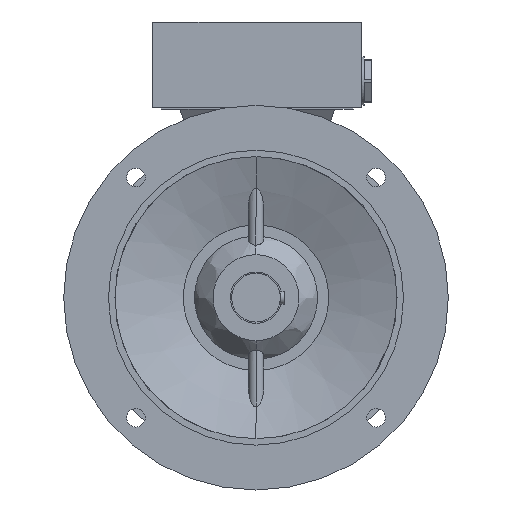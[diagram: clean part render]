
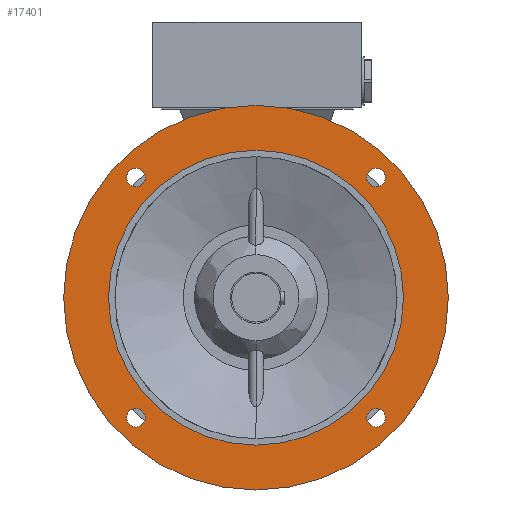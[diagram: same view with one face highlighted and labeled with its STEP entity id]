
A CAD part, left-side view. The second image highlights one B-rep face of the part: STEP entity #17401.
In plain terms, the highlighted planar face has unit normal (-1, 0, 0).
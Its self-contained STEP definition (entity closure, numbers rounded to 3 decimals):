
#1345 = FACE_BOUND ( 'NONE', #8859, .T. ) ;
#1348 = FACE_BOUND ( 'NONE', #8899, .T. ) ;
#1350 = FACE_OUTER_BOUND ( 'NONE', #14805, .T. ) ;
#1351 = FACE_BOUND ( 'NONE', #14267, .T. ) ;
#1352 = FACE_BOUND ( 'NONE', #12494, .T. ) ;
#1353 = FACE_BOUND ( 'NONE', #8702, .T. ) ;
#1929 = CIRCLE ( 'NONE', #24018, 115. ) ;
#1953 = CIRCLE ( 'NONE', #24020, 150. ) ;
#1964 = CIRCLE ( 'NONE', #24022, 7.25 ) ;
#1966 = CIRCLE ( 'NONE', #24024, 7.25 ) ;
#1968 = CIRCLE ( 'NONE', #24026, 7.25 ) ;
#1970 = CIRCLE ( 'NONE', #24029, 7.25 ) ;
#2753 = AXIS2_PLACEMENT_3D ( 'NONE', #14844, #14845, #14846 ) ;
#2760 = AXIS2_PLACEMENT_3D ( 'NONE', #14877, #14878, #14879 ) ;
#2762 = AXIS2_PLACEMENT_3D ( 'NONE', #14910, #14911, #14912 ) ;
#2767 = AXIS2_PLACEMENT_3D ( 'NONE', #14972, #14973, #14974 ) ;
#2772 = AXIS2_PLACEMENT_3D ( 'NONE', #15036, #15037, #15038 ) ;
#3906 = CARTESIAN_POINT ( 'NONE',  ( -50.5, 0., 0. ) ) ;
#3907 = DIRECTION ( 'NONE',  ( 1., 0., 0. ) ) ;
#3908 = DIRECTION ( 'NONE',  ( 0., 0., 1. ) ) ;
#3921 = CARTESIAN_POINT ( 'NONE',  ( -50.5, 0., 0. ) ) ;
#3922 = DIRECTION ( 'NONE',  ( 1., 0., 0. ) ) ;
#3923 = DIRECTION ( 'NONE',  ( 0., 0., 1. ) ) ;
#3924 = CARTESIAN_POINT ( 'NONE',  ( -50.5, -93.692, 93.692 ) ) ;
#3925 = DIRECTION ( 'NONE',  ( 1., 0., 0. ) ) ;
#3926 = DIRECTION ( 'NONE',  ( 0., 0., -1. ) ) ;
#3927 = CARTESIAN_POINT ( 'NONE',  ( -50.5, 93.692, 93.692 ) ) ;
#3928 = DIRECTION ( 'NONE',  ( 1., 0., 0. ) ) ;
#3929 = DIRECTION ( 'NONE',  ( 0., 0., -1. ) ) ;
#3931 = CARTESIAN_POINT ( 'NONE',  ( -50.5, 93.692, -93.692 ) ) ;
#3932 = DIRECTION ( 'NONE',  ( 1., 0., 0. ) ) ;
#3933 = DIRECTION ( 'NONE',  ( 0., 0., -1. ) ) ;
#3936 = CARTESIAN_POINT ( 'NONE',  ( -50.5, -93.692, -93.692 ) ) ;
#3937 = DIRECTION ( 'NONE',  ( 1., 0., 0. ) ) ;
#3938 = DIRECTION ( 'NONE',  ( 0., 0., -1. ) ) ;
#4505 = CIRCLE ( 'NONE', #24185, 115. ) ;
#4742 = CARTESIAN_POINT ( 'NONE',  ( -50.5, 0., 0. ) ) ;
#4743 = DIRECTION ( 'NONE',  ( 1., 0., 0. ) ) ;
#4744 = DIRECTION ( 'NONE',  ( 0., 0., 1. ) ) ;
#5705 = AXIS2_PLACEMENT_3D ( 'NONE', #7426, #7421, #7427 ) ;
#7420 = PLANE ( 'NONE',  #5705 ) ;
#7421 = DIRECTION ( 'NONE',  ( -1., 0., 0. ) ) ;
#7426 = CARTESIAN_POINT ( 'NONE',  ( -50.5, 132.5, 0. ) ) ;
#7427 = DIRECTION ( 'NONE',  ( 0., 0., 1. ) ) ;
#8612 = ORIENTED_EDGE ( 'NONE', *, *, #19208, .T. ) ;
#8629 = ORIENTED_EDGE ( 'NONE', *, *, #15732, .T. ) ;
#8637 = ORIENTED_EDGE ( 'NONE', *, *, #19207, .T. ) ;
#8644 = ORIENTED_EDGE ( 'NONE', *, *, #19209, .T. ) ;
#8655 = ORIENTED_EDGE ( 'NONE', *, *, #19196, .T. ) ;
#8702 = EDGE_LOOP ( 'NONE', ( #8644, #8798 ) ) ;
#8722 = ORIENTED_EDGE ( 'NONE', *, *, #19206, .T. ) ;
#8742 = ORIENTED_EDGE ( 'NONE', *, *, #15690, .F. ) ;
#8798 = ORIENTED_EDGE ( 'NONE', *, *, #15714, .T. ) ;
#8814 = ORIENTED_EDGE ( 'NONE', *, *, #19205, .F. ) ;
#8838 = ORIENTED_EDGE ( 'NONE', *, *, #15682, .T. ) ;
#8851 = ORIENTED_EDGE ( 'NONE', *, *, #15698, .T. ) ;
#8859 = EDGE_LOOP ( 'NONE', ( #8722, #8851 ) ) ;
#8870 = ORIENTED_EDGE ( 'NONE', *, *, #22711, .T. ) ;
#8899 = EDGE_LOOP ( 'NONE', ( #8612, #8838 ) ) ;
#12494 = EDGE_LOOP ( 'NONE', ( #8655, #8870 ) ) ;
#14251 = VERTEX_POINT ( 'NONE', #20626 ) ;
#14256 = VERTEX_POINT ( 'NONE', #20630 ) ;
#14264 = VERTEX_POINT ( 'NONE', #20637 ) ;
#14267 = EDGE_LOOP ( 'NONE', ( #8637, #8629 ) ) ;
#14269 = VERTEX_POINT ( 'NONE', #20641 ) ;
#14272 = VERTEX_POINT ( 'NONE', #20644 ) ;
#14278 = VERTEX_POINT ( 'NONE', #20649 ) ;
#14279 = VERTEX_POINT ( 'NONE', #20650 ) ;
#14283 = VERTEX_POINT ( 'NONE', #20653 ) ;
#14293 = VERTEX_POINT ( 'NONE', #20662 ) ;
#14295 = VERTEX_POINT ( 'NONE', #20664 ) ;
#14297 = VERTEX_POINT ( 'NONE', #20666 ) ;
#14298 = VERTEX_POINT ( 'NONE', #20667 ) ;
#14805 = EDGE_LOOP ( 'NONE', ( #8814, #8742 ) ) ;
#14844 = CARTESIAN_POINT ( 'NONE',  ( -50.5, 93.692, -93.692 ) ) ;
#14845 = DIRECTION ( 'NONE',  ( 1., 0., 0. ) ) ;
#14846 = DIRECTION ( 'NONE',  ( 0., 0., -1. ) ) ;
#14877 = CARTESIAN_POINT ( 'NONE',  ( -50.5, 0., 0. ) ) ;
#14878 = DIRECTION ( 'NONE',  ( 1., 0., 0. ) ) ;
#14879 = DIRECTION ( 'NONE',  ( 0., 0., 1. ) ) ;
#14910 = CARTESIAN_POINT ( 'NONE',  ( -50.5, -93.692, 93.692 ) ) ;
#14911 = DIRECTION ( 'NONE',  ( 1., 0., 0. ) ) ;
#14912 = DIRECTION ( 'NONE',  ( 0., 0., -1. ) ) ;
#14972 = CARTESIAN_POINT ( 'NONE',  ( -50.5, -93.692, -93.692 ) ) ;
#14973 = DIRECTION ( 'NONE',  ( 1., 0., 0. ) ) ;
#14974 = DIRECTION ( 'NONE',  ( 0., 0., -1. ) ) ;
#15036 = CARTESIAN_POINT ( 'NONE',  ( -50.5, 93.692, 93.692 ) ) ;
#15037 = DIRECTION ( 'NONE',  ( 1., 0., 0. ) ) ;
#15038 = DIRECTION ( 'NONE',  ( 0., 0., -1. ) ) ;
#15682 = EDGE_CURVE ( 'NONE', #14264, #14269, #18050, .T. ) ;
#15690 = EDGE_CURVE ( 'NONE', #14293, #14295, #18057, .T. ) ;
#15698 = EDGE_CURVE ( 'NONE', #14279, #14283, #18064, .T. ) ;
#15714 = EDGE_CURVE ( 'NONE', #14251, #14256, #18083, .T. ) ;
#15732 = EDGE_CURVE ( 'NONE', #14272, #14278, #18111, .T. ) ;
#17401 = ADVANCED_FACE ( 'NONE', ( #1350, #1352, #1345, #1351, #1348, #1353 ), #7420, .T. ) ;
#18050 = CIRCLE ( 'NONE', #2753, 7.25 ) ;
#18057 = CIRCLE ( 'NONE', #2760, 150. ) ;
#18064 = CIRCLE ( 'NONE', #2762, 7.25 ) ;
#18083 = CIRCLE ( 'NONE', #2767, 7.25 ) ;
#18111 = CIRCLE ( 'NONE', #2772, 7.25 ) ;
#19196 = EDGE_CURVE ( 'NONE', #14298, #14297, #1929, .T. ) ;
#19205 = EDGE_CURVE ( 'NONE', #14295, #14293, #1953, .T. ) ;
#19206 = EDGE_CURVE ( 'NONE', #14283, #14279, #1964, .T. ) ;
#19207 = EDGE_CURVE ( 'NONE', #14278, #14272, #1966, .T. ) ;
#19208 = EDGE_CURVE ( 'NONE', #14269, #14264, #1968, .T. ) ;
#19209 = EDGE_CURVE ( 'NONE', #14256, #14251, #1970, .T. ) ;
#20626 = CARTESIAN_POINT ( 'NONE',  ( -50.5, -93.692, -86.442 ) ) ;
#20630 = CARTESIAN_POINT ( 'NONE',  ( -50.5, -93.692, -100.942 ) ) ;
#20637 = CARTESIAN_POINT ( 'NONE',  ( -50.5, 93.692, -86.442 ) ) ;
#20641 = CARTESIAN_POINT ( 'NONE',  ( -50.5, 93.692, -100.942 ) ) ;
#20644 = CARTESIAN_POINT ( 'NONE',  ( -50.5, 93.692, 100.942 ) ) ;
#20649 = CARTESIAN_POINT ( 'NONE',  ( -50.5, 93.692, 86.442 ) ) ;
#20650 = CARTESIAN_POINT ( 'NONE',  ( -50.5, -93.692, 100.942 ) ) ;
#20653 = CARTESIAN_POINT ( 'NONE',  ( -50.5, -93.692, 86.442 ) ) ;
#20662 = CARTESIAN_POINT ( 'NONE',  ( -50.5, 0., -150. ) ) ;
#20664 = CARTESIAN_POINT ( 'NONE',  ( -50.5, 0., 150. ) ) ;
#20666 = CARTESIAN_POINT ( 'NONE',  ( -50.5, 0., -115. ) ) ;
#20667 = CARTESIAN_POINT ( 'NONE',  ( -50.5, 0., 115. ) ) ;
#22711 = EDGE_CURVE ( 'NONE', #14297, #14298, #4505, .T. ) ;
#24018 = AXIS2_PLACEMENT_3D ( 'NONE', #3906, #3907, #3908 ) ;
#24020 = AXIS2_PLACEMENT_3D ( 'NONE', #3921, #3922, #3923 ) ;
#24022 = AXIS2_PLACEMENT_3D ( 'NONE', #3924, #3925, #3926 ) ;
#24024 = AXIS2_PLACEMENT_3D ( 'NONE', #3927, #3928, #3929 ) ;
#24026 = AXIS2_PLACEMENT_3D ( 'NONE', #3931, #3932, #3933 ) ;
#24029 = AXIS2_PLACEMENT_3D ( 'NONE', #3936, #3937, #3938 ) ;
#24185 = AXIS2_PLACEMENT_3D ( 'NONE', #4742, #4743, #4744 ) ;
